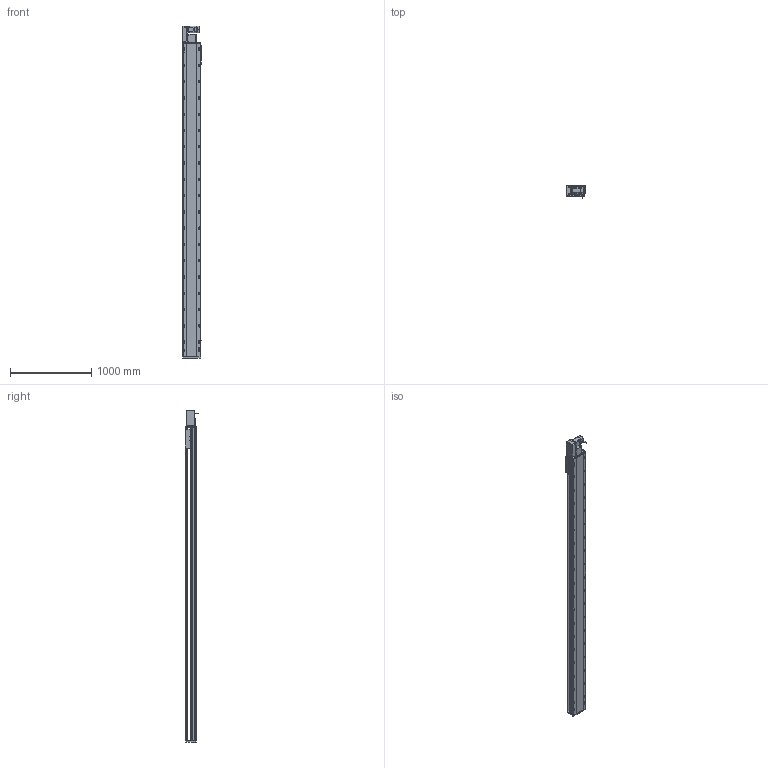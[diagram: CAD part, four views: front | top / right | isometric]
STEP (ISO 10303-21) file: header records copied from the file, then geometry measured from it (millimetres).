
FILE_DESCRIPTION (( 'STEP AP214' ), '1' );
FILE_NAME ('RTB22S-XX-3500-L-M75-C4.STEP', '2025-12-12T03:35:29', ( '' ), ( '' ), 'SwSTEP 2.0', 'SolidWorks 2018', '' );
FILE_SCHEMA (( 'AUTOMOTIVE_DESIGN' ));
Length unit declared in the file: millimetre
Products named in the file (14): RTB22S-GY-008-M75--萇儂啣^RTB22S-L-々湍釱蚾饜_RTB22S-XX-XX-L-M75-C4; OMRON EE-SX672 传感器^RTB22S-XX-XX-L-M75-C4; RTB22S-L-011菁釱^RTB22S-XX-XX-L-M75-C4; RTB22S-L-004賑釱^RTB22S-XX-XX-L-M75-C4; RTB22S-GY-001耜裔^RTB22S-XX-XX-L-M75-C4; RTH22-GY-013外置感应片^RTB22S-XX-XX-L-M75-C4; 750W萇儂^RTB22S-XX-XX-L-M75-C4; RTB22S-XX-3500-L-M75-C4; RTB22S-GY-005P^RTB22S-L-々湍釱蚾饜_RTB22S-XX-XX-L-M75-C4; RTB22S-GY-014--々湍釱^RTB22S-L-々湍釱蚾饜_RTB22S-XX-XX-L-M75-C4; RTB22S-L-々湍釱蚾饜^RTB22S-XX-XX-L-M75-C4; RTB22S-GY-018P^RTB22S-L-々湍釱蚾饜_RTB22S-XX-XX-L-M75-C4; RTB22S-GY-017P^RTB22S-L-々湍釱蚾饜_RTB22S-XX-XX-L-M75-C4; RTB22S-GY-007奻裔^RTB22S-XX-XX-L-M75-C4
Assembly tree (16 placements, depth 3):
  RTB22S-XX-3500-L-M75-C4
    RTB22S-L-011菁釱^RTB22S-XX-XX-L-M75-C4
    750W萇儂^RTB22S-XX-XX-L-M75-C4
    RTB22S-L-004賑釱^RTB22S-XX-XX-L-M75-C4
    OMRON EE-SX672 传感器^RTB22S-XX-XX-L-M75-C4  x3
    RTH22-GY-013外置感应片^RTB22S-XX-XX-L-M75-C4
    RTB22S-GY-007奻裔^RTB22S-XX-XX-L-M75-C4
    RTB22S-GY-001耜裔^RTB22S-XX-XX-L-M75-C4
    RTB22S-L-々湍釱蚾饜^RTB22S-XX-XX-L-M75-C4
      RTB22S-GY-014--々湍釱^RTB22S-L-々湍釱蚾饜_RTB22S-XX-XX-L-M75-C4
      RTB22S-GY-017P^RTB22S-L-々湍釱蚾饜_RTB22S-XX-XX-L-M75-C4  x2
      RTB22S-GY-005P^RTB22S-L-々湍釱蚾饜_RTB22S-XX-XX-L-M75-C4
      RTB22S-GY-008-M75--萇儂啣^RTB22S-L-々湍釱蚾饜_RTB22S-XX-XX-L-M75-C4
      RTB22S-GY-018P^RTB22S-L-々湍釱蚾饜_RTB22S-XX-XX-L-M75-C4
Bounding box: 238.5 x 162.7 x 4079 mm (x, y, z)
Volume: 50412493.5 mm3; surface area: 5129335.1 mm2
Topology: 15 solids, 15 shells, 2199 faces, 5986 edges, 3812 vertices
Faces by surface type: plane 939, cylinder 766, bspline 296, cone 186, sphere 8, torus 4
Entity records: 60664 total; most frequent: CARTESIAN_POINT 16948, ORIENTED_EDGE 8664, DIRECTION 8546, EDGE_CURVE 4332, AXIS2_PLACEMENT_3D 3094, VERTEX_POINT 2816, VECTOR 2358, LINE 2358
